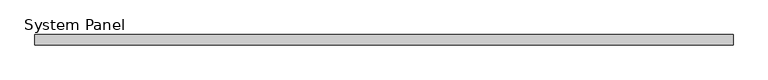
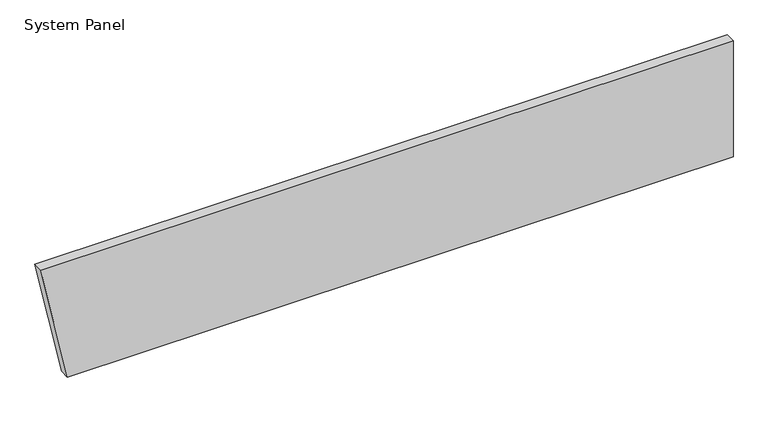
"""IFC4 building model written with IfcOpenShell, lengths in millimetres: plate geometry, System Panel : Equitilt_FlameGuard_100mm_Plain_Surfmist."""

from ifc_helpers import new_model, si_unit, frame, origin, place, context, project, spatial, polyline, outline, extrude, source, transform, mapped, element, save


def system_panel_a48a017a(model_context):
    return source(origin(), model_context, "Body", "SweptSolid", [
        extrude(outline(polyline([(0.0, -3125.4358309), (0.0, 3386.3074928), (1200.0, 3386.3074928), (1200.0, -3386.3074928), (0.0, -3125.4358309)])), frame((0.0, -100.0, 0.0), z_axis=(0.0, 1.0, 0.0), x_axis=(0.0, 0.0, 1.0)), (0.0, 0.0, 1.0), 100.0),
    ])


if __name__ == "__main__":
    model = new_model("IFC4")
    model_context = context("Model", 3, world=origin())
    ifc_project = project(units=[si_unit("LENGTHUNIT", "METRE", prefix="MILLI")], contexts=[model_context])
    site = spatial("IfcSite", under=ifc_project)
    building = spatial("IfcBuilding", under=site)
    placement = place(None, origin())
    system_panel_shape = system_panel_a48a017a(model_context)
    element("IfcPlate", 1, ObjectType="System Panel : Equitilt_FlameGuard_100mm_Plain_Surfmist", at=placement, inside=building, context=model_context, shape_type="MappedRepresentation", body=[
        mapped(system_panel_shape, transform((0.0, 0.0, 0.0), x_axis=(1.0, 0.0, 0.0), y_axis=(0.0, 1.0, 0.0), z_axis=(0.0, 0.0, 1.0))),
    ])
    save(model, "model.ifc")
